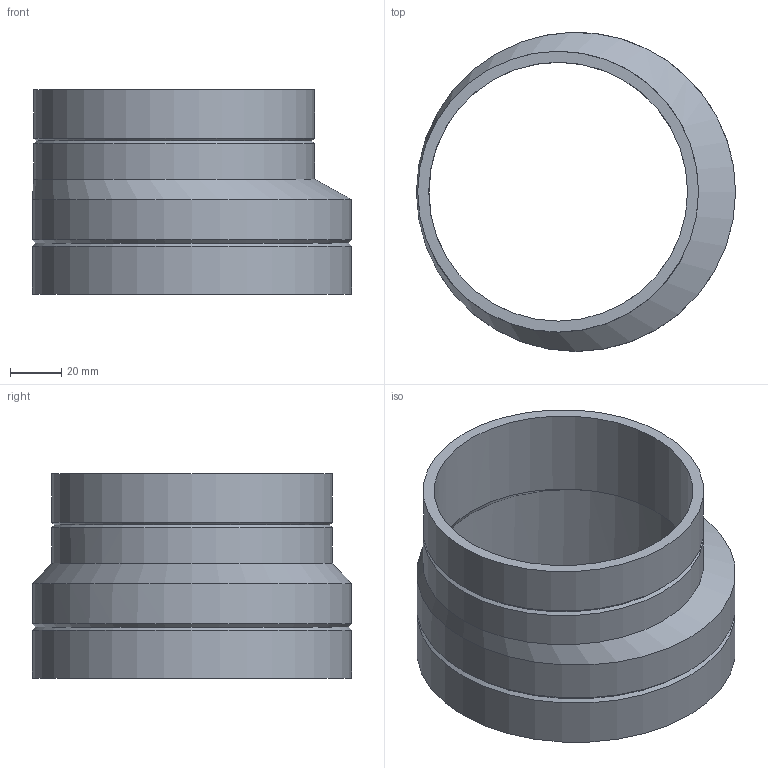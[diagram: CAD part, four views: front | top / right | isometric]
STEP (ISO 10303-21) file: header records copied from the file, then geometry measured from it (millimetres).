
FILE_DESCRIPTION(/* description */ (''),/* implementation_level */ '2;1');
FILE_NAME(/* name */ 'Z:\Geberit\Export\NewStep\368586.stp',/* time_stamp */ '2014-04-02T08:01:10+02:00',/* author */ ('nelson'),/* organization */ (''),/* preprocessor_version */ 'ST-DEVELOPER v15.2',/* originating_system */ 'Autodesk Inventor 2014',/* authorisation */ '');
FILE_SCHEMA (('AUTOMOTIVE_DESIGN { 1 0 10303 214 3 1 1 }'));
Length unit declared in the file: millimetre
Products named in the file (1): 368586
Bounding box: 125 x 125 x 80 mm (x, y, z)
Volume: 130419 mm3; surface area: 63262.9 mm2
Topology: 1 solids, 1 shells, 14 faces, 38 edges, 26 vertices
Faces by surface type: cylinder 6, cone 4, bspline 2, plane 2
Full cylindrical faces by diameter (mm): 101.4 x1, 110 x2, 115.2 x1, 125 x2
Entity records: 417 total; most frequent: CARTESIAN_POINT 93, DIRECTION 66, ORIENTED_EDGE 44, AXIS2_PLACEMENT_3D 33, EDGE_LOOP 26, EDGE_CURVE 22, CIRCLE 20, VERTEX_POINT 20
